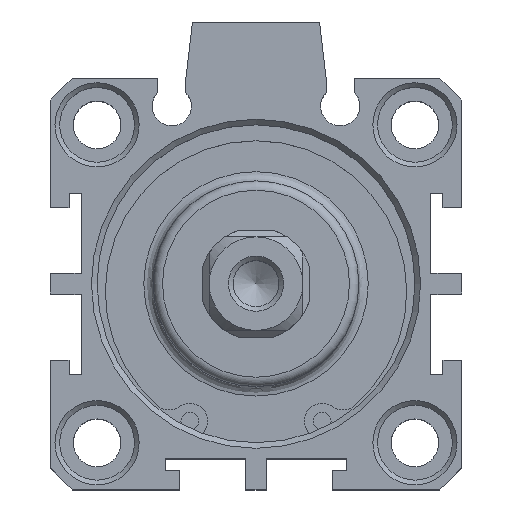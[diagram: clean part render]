
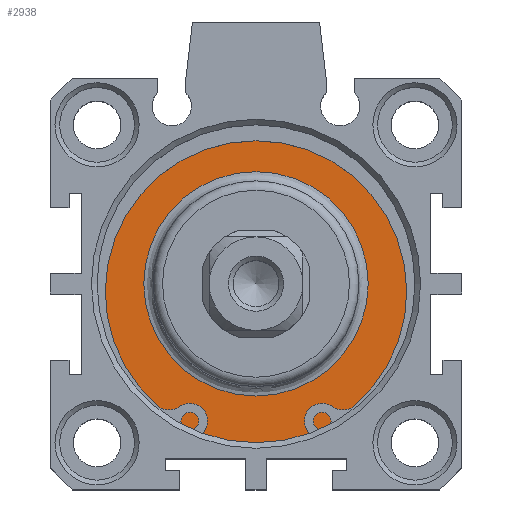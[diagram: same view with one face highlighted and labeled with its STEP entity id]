
A CAD part, top view. The second image highlights one B-rep face of the part: STEP entity #2938.
In plain terms, the highlighted planar face has unit normal (0, 0, 1).
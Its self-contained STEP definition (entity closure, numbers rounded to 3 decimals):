
#2887=CARTESIAN_POINT('',(-3.726,11.88,30.3));
#2888=VERTEX_POINT('',#2887);
#2889=CARTESIAN_POINT('',(-3.726,-0.12,30.3));
#2890=DIRECTION('',(0.0,0.0,1.0));
#2891=DIRECTION('',(0.0,-1.0,0.0));
#2892=AXIS2_PLACEMENT_3D('',#2889,#2890,#2891);
#2893=CIRCLE('',#2892,12.);
#2894=EDGE_CURVE('',#2888,#2888,#2893,.T.);
#2919=CARTESIAN_POINT('',(-3.726,13.88,30.3));
#2920=DIRECTION('',(0.0,0.0,1.0));
#2921=DIRECTION('',(1.0,0.0,0.0));
#2922=AXIS2_PLACEMENT_3D('',#2919,#2920,#2921);
#2923=PLANE('',#2922);
#2924=CARTESIAN_POINT('',(-3.726,16.88,30.3));
#2925=VERTEX_POINT('',#2924);
#2926=CARTESIAN_POINT('',(-3.726,-0.12,30.3));
#2927=DIRECTION('',(0.0,0.0,-1.0));
#2928=DIRECTION('',(0.0,1.0,0.0));
#2929=AXIS2_PLACEMENT_3D('',#2926,#2927,#2928);
#2930=CIRCLE('',#2929,17.);
#2931=EDGE_CURVE('',#2925,#2925,#2930,.T.);
#2932=ORIENTED_EDGE('',*,*,#2931,.F.);
#2933=EDGE_LOOP('',(#2932));
#2934=FACE_OUTER_BOUND('',#2933,.T.);
#2935=ORIENTED_EDGE('',*,*,#2894,.F.);
#2936=EDGE_LOOP('',(#2935));
#2937=FACE_BOUND('',#2936,.T.);
#2938=ADVANCED_FACE('',(#2934,#2937),#2923,.T.);
